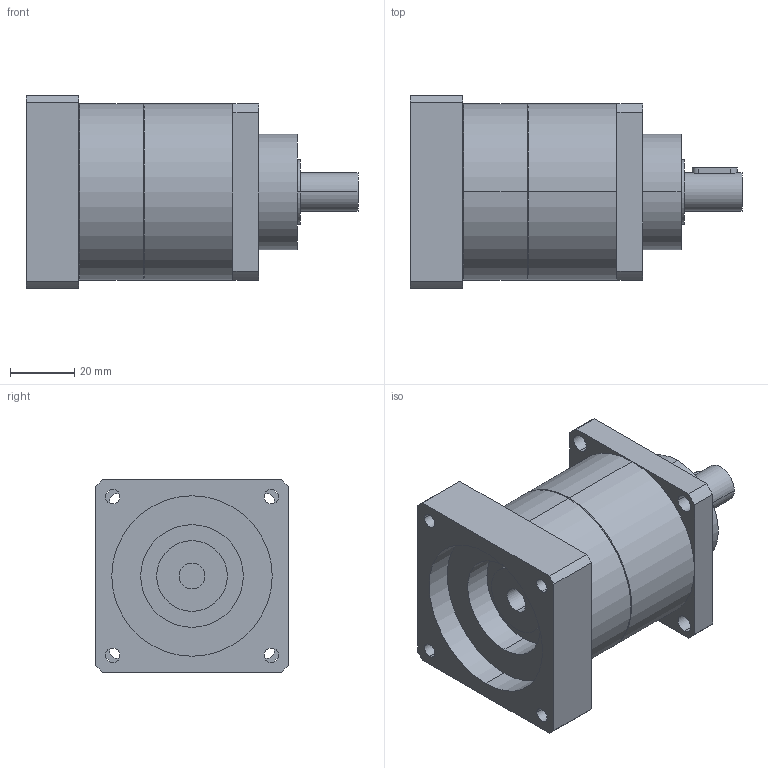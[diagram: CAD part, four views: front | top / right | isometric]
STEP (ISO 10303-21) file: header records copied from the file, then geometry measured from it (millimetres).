
FILE_DESCRIPTION(('CoCreate Modeling STEP Export'),'2;1');
FILE_NAME('GPT55_ig-3-4-5-7-10_12_B5A_8_P17.stp','2014-08-25T14:34:18',(''),(''),'CoCreate Modeling STEP processor for AP214 (Solid Model)','CoCreate Modeling 16.00C 25-Feb-2009 (C) Parametric Technology GmbH','');
FILE_SCHEMA(('AUTOMOTIVE_DESIGN { 1 0 10303 214 1 1 1 1 }'));
Length unit declared in the file: millimetre
Products named in the file (2): GPT55_ig-3-4-5-7-10_12_B5A_8_P17
Assembly tree (1 placements, depth 2):
  GPT55_ig-3-4-5-7-10_12_B5A_8_P17
    GPT55_ig-3-4-5-7-10_12_B5A_8_P17
Bounding box: 103.5 x 60 x 60 mm (x, y, z)
Volume: 187525.5 mm3; surface area: 28827.4 mm2
Topology: 1 solids, 1 shells, 77 faces, 205 edges, 140 vertices
Faces by surface type: cylinder 46, plane 27, cone 4
Entity records: 2520 total; most frequent: CARTESIAN_POINT 711, ORIENTED_EDGE 410, DIRECTION 318, EDGE_CURVE 205, VERTEX_POINT 140, AXIS2_PLACEMENT_3D 117, EDGE_LOOP 103, VECTOR 84
